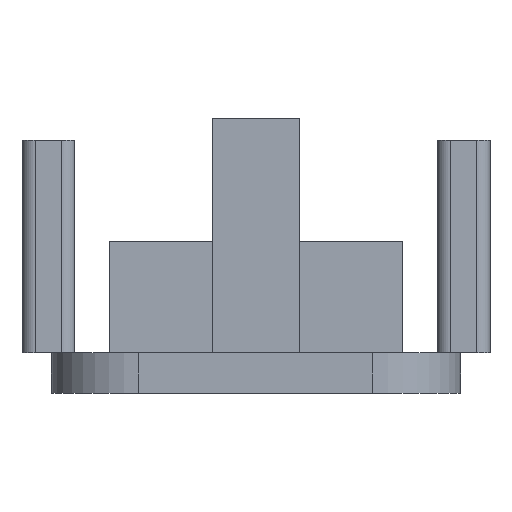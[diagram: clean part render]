
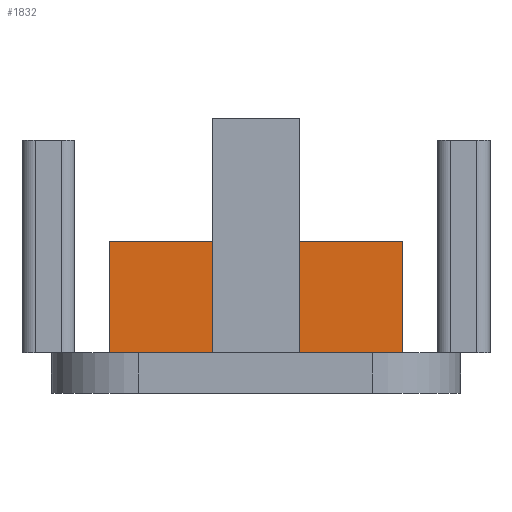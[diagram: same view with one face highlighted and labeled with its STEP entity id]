
A CAD part, left-side view. The second image highlights one B-rep face of the part: STEP entity #1832.
In plain terms, the highlighted planar face has unit normal (-1, 0, 0).
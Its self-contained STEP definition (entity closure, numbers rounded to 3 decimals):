
#144=FACE_OUTER_BOUND('',#243,.T.);
#243=EDGE_LOOP('',(#1311,#1312,#1313,#1314));
#341=LINE('',#2619,#553);
#411=LINE('',#2760,#623);
#412=LINE('',#2761,#624);
#413=LINE('',#2762,#625);
#553=VECTOR('',#2089,10.);
#623=VECTOR('',#2209,10.);
#624=VECTOR('',#2210,10.);
#625=VECTOR('',#2211,10.);
#765=VERTEX_POINT('',#2616);
#766=VERTEX_POINT('',#2618);
#811=VERTEX_POINT('',#2758);
#812=VERTEX_POINT('',#2759);
#941=EDGE_CURVE('',#765,#766,#341,.T.);
#1011=EDGE_CURVE('',#811,#812,#411,.T.);
#1012=EDGE_CURVE('',#766,#811,#412,.T.);
#1013=EDGE_CURVE('',#765,#812,#413,.T.);
#1311=ORIENTED_EDGE('',*,*,#1011,.F.);
#1312=ORIENTED_EDGE('',*,*,#1012,.F.);
#1313=ORIENTED_EDGE('',*,*,#941,.F.);
#1314=ORIENTED_EDGE('',*,*,#1013,.T.);
#1762=PLANE('',#1944);
#1832=ADVANCED_FACE('',(#144),#1762,.F.);
#1944=AXIS2_PLACEMENT_3D('',#2757,#2207,#2208);
#2089=DIRECTION('',(0.,-1.,0.));
#2207=DIRECTION('center_axis',(1.,0.,0.));
#2208=DIRECTION('ref_axis',(0.,0.,-1.));
#2209=DIRECTION('',(0.,1.,0.));
#2210=DIRECTION('',(0.,0.,-1.));
#2211=DIRECTION('',(0.,0.,-1.));
#2616=CARTESIAN_POINT('',(-5.,-42.,-7.1));
#2618=CARTESIAN_POINT('',(-5.,-52.,-7.1));
#2619=CARTESIAN_POINT('',(-5.,-47.,-7.1));
#2757=CARTESIAN_POINT('Origin',(-5.,-47.,-9.205));
#2758=CARTESIAN_POINT('',(-5.,-52.,-10.9));
#2759=CARTESIAN_POINT('',(-5.,-42.,-10.9));
#2760=CARTESIAN_POINT('',(-5.,-47.,-10.9));
#2761=CARTESIAN_POINT('',(-5.,-52.,-7.3));
#2762=CARTESIAN_POINT('',(-5.,-42.,-7.3));
